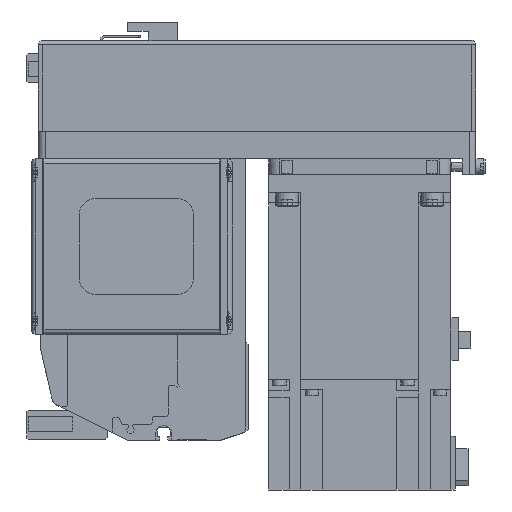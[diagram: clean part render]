
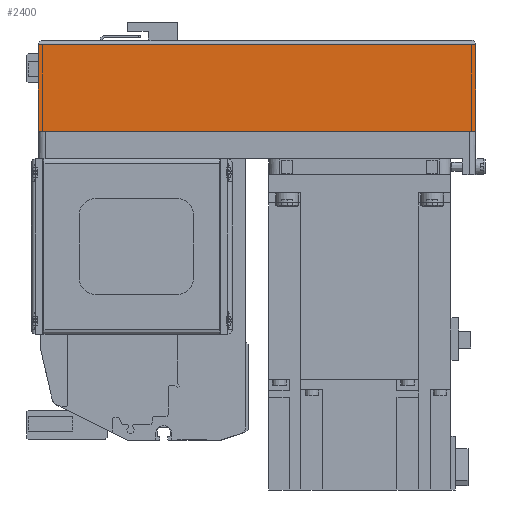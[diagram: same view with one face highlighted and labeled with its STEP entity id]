
A CAD part, left-side view. The second image highlights one B-rep face of the part: STEP entity #2400.
In plain terms, the highlighted planar face has unit normal (-1, 0, 0) as drawn and (0, -1, 0) by its records, which use the part's own axes.
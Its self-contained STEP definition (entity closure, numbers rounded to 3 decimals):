
#2400 = ADVANCED_FACE( '', ( #5540 ), #5541, .T. );
#5540 = FACE_OUTER_BOUND( '', #9468, .T. );
#5541 = PLANE( '', #9469 );
#9468 = EDGE_LOOP( '', ( #16212, #16213, #16214, #16215 ) );
#9469 = AXIS2_PLACEMENT_3D( '', #16216, #16217, #16218 );
#16212 = ORIENTED_EDGE( '', *, *, #24287, .F. );
#16213 = ORIENTED_EDGE( '', *, *, #24288, .F. );
#16214 = ORIENTED_EDGE( '', *, *, #24289, .T. );
#16215 = ORIENTED_EDGE( '', *, *, #24290, .T. );
#16216 = CARTESIAN_POINT( '', ( -192., -40., -12.1 ) );
#16217 = DIRECTION( '', ( 0., -1., 0. ) );
#16218 = DIRECTION( '', ( 0., 0., -1. ) );
#24287 = EDGE_CURVE( '', #27344, #29833, #29834, .T. );
#24288 = EDGE_CURVE( '', #29835, #27344, #29836, .T. );
#24289 = EDGE_CURVE( '', #29835, #26603, #29837, .T. );
#24290 = EDGE_CURVE( '', #26603, #29833, #29838, .T. );
#26603 = VERTEX_POINT( '', #32926 );
#27344 = VERTEX_POINT( '', #34063 );
#29833 = VERTEX_POINT( '', #38167 );
#29834 = LINE( '', #38168, #38169 );
#29835 = VERTEX_POINT( '', #38170 );
#29836 = LINE( '', #38171, #38172 );
#29837 = LINE( '', #38173, #38174 );
#29838 = LINE( '', #38175, #38176 );
#32926 = CARTESIAN_POINT( '', ( -192., -40., -50. ) );
#34063 = CARTESIAN_POINT( '', ( 0., -40., -12.1 ) );
#38167 = CARTESIAN_POINT( '', ( 0., -40., -50. ) );
#38168 = CARTESIAN_POINT( '', ( 0., -40., -12.1 ) );
#38169 = VECTOR( '', #44275, 1000. );
#38170 = CARTESIAN_POINT( '', ( -192., -40., -12.1 ) );
#38171 = CARTESIAN_POINT( '', ( -192., -40., -12.1 ) );
#38172 = VECTOR( '', #44276, 1000. );
#38173 = CARTESIAN_POINT( '', ( -192., -40., -12.1 ) );
#38174 = VECTOR( '', #44277, 1000. );
#38175 = CARTESIAN_POINT( '', ( -192., -40., -50. ) );
#38176 = VECTOR( '', #44278, 1000. );
#44275 = DIRECTION( '', ( 0., 0., -1. ) );
#44276 = DIRECTION( '', ( 1., 0., 0. ) );
#44277 = DIRECTION( '', ( 0., 0., -1. ) );
#44278 = DIRECTION( '', ( 1., 0., 0. ) );
